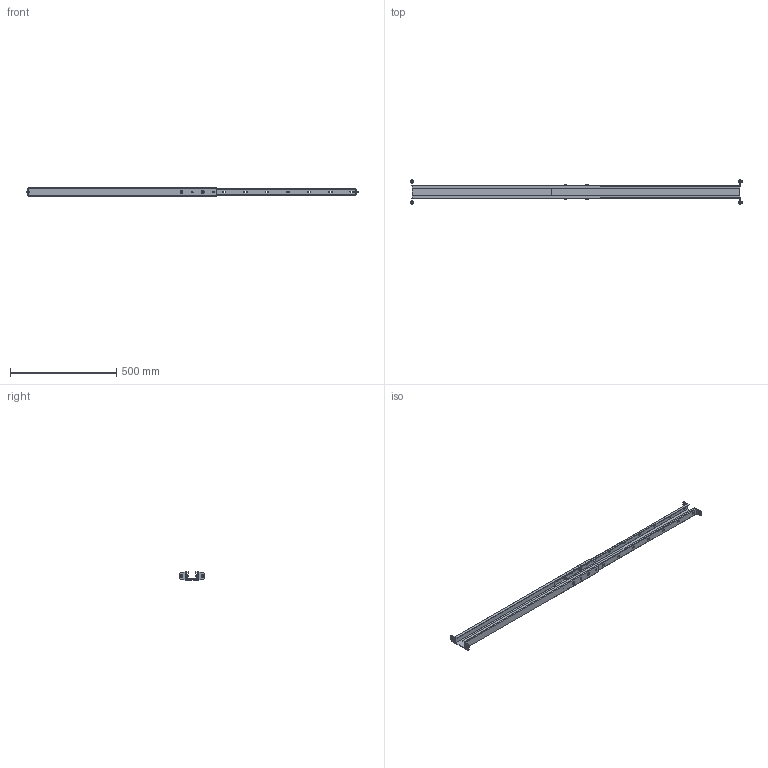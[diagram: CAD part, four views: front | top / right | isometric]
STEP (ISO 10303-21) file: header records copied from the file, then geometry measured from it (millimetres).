
FILE_DESCRIPTION(/* description */ ('Unknown'),/* implementation_level */ '2;1');
FILE_NAME(/* name */ '127.00842_00-1550mm',/* time_stamp */ '2025-11-05T10:12:16+01:00',/* author */ ('Unknown'),/* organization */ ('Unknown'),/* preprocessor_version */ 'ST-DEVELOPER v20',/* originating_system */ 'Solid Edge',/* authorisation */ 'Unknown');
FILE_SCHEMA (('AUTOMOTIVE_DESIGN {1 0 10303 214 3 1 1}'));
Length unit declared in the file: millimetre
Products named in the file (7): 127.00842; E1 Traverse aussen; E1 Traverse innen; Halbrundkopfschraube M6x16; Scheibe ﾘ6,4; Sechskantmutter M6; Halbrundkopfschraube M8x10
Assembly tree (18 placements, depth 2):
  127.00842
    E1 Traverse aussen
    E1 Traverse innen
    Halbrundkopfschraube M6x16  x4
    Scheibe ﾘ6,4  x4
    Sechskantmutter M6  x4
    Halbrundkopfschraube M8x10  x4
Bounding box: 1565 x 120 x 40 mm (x, y, z)
Volume: 675253.3 mm3; surface area: 555062.8 mm2
Topology: 18 solids, 18 shells, 593 faces, 1499 edges, 962 vertices
Faces by surface type: plane 260, cylinder 201, torus 72, bspline 48, cone 8, sphere 4
Full cylindrical faces by diameter (mm): 6 x8, 6.4 x4, 8 x4, 12 x4, 13.6 x4, 14 x4
Entity records: 9999 total; most frequent: CARTESIAN_POINT 2361, ORIENTED_EDGE 1530, DIRECTION 1523, EDGE_CURVE 765, AXIS2_PLACEMENT_3D 535, VERTEX_POINT 508, LINE 453, VECTOR 453
